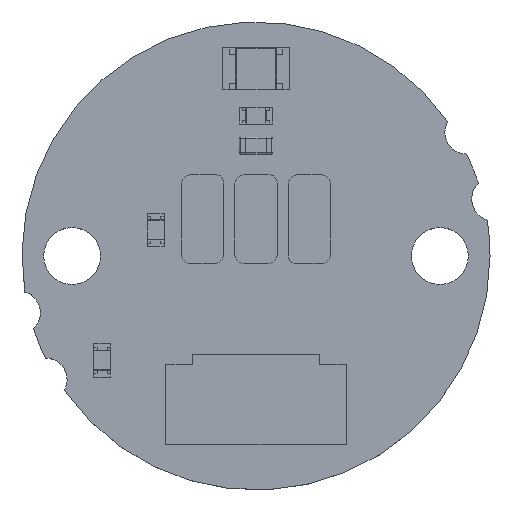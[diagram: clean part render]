
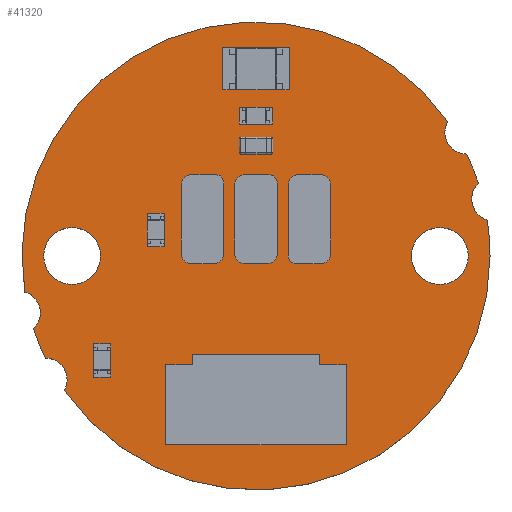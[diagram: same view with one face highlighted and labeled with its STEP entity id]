
A CAD part, top view. The second image highlights one B-rep face of the part: STEP entity #41320.
In plain terms, the highlighted planar face has unit normal (0, 0, 1).
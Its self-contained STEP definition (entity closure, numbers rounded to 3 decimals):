
#355 = DIRECTION ( 'NONE',  ( 0., 0., 1. ) ) ;
#532 = EDGE_CURVE ( 'NONE', #16950, #37010, #6153, .T. ) ;
#802 = DIRECTION ( 'NONE',  ( 0., 0., 1. ) ) ;
#1093 = CIRCLE ( 'NONE', #36538, 7. ) ;
#1194 = VERTEX_POINT ( 'NONE', #5838 ) ;
#1363 = EDGE_CURVE ( 'NONE', #3204, #37010, #33545, .T. ) ;
#1604 = CARTESIAN_POINT ( 'NONE',  ( 1.55, 6.3, 0. ) ) ;
#1630 = AXIS2_PLACEMENT_3D ( 'NONE', #33180, #802, #34109 ) ;
#1679 = EDGE_CURVE ( 'NONE', #37803, #23817, #35358, .T. ) ;
#1802 = CARTESIAN_POINT ( 'NONE',  ( 14.3, 11.7, 0. ) ) ;
#1896 = ORIENTED_EDGE ( 'NONE', *, *, #532, .F. ) ;
#2059 = CARTESIAN_POINT ( 'NONE',  ( 12.65, 8., 0. ) ) ;
#3204 = VERTEX_POINT ( 'NONE', #9495 ) ;
#3265 = ORIENTED_EDGE ( 'NONE', *, *, #17530, .F. ) ;
#3336 = ORIENTED_EDGE ( 'NONE', *, *, #13558, .F. ) ;
#3934 = EDGE_CURVE ( 'NONE', #41532, #42055, #1093, .T. ) ;
#4020 = VERTEX_POINT ( 'NONE', #42653 ) ;
#5017 = CARTESIAN_POINT ( 'NONE',  ( 13.5, 8., 0. ) ) ;
#5030 = EDGE_CURVE ( 'NONE', #36456, #43209, #39455, .T. ) ;
#5575 = FACE_BOUND ( 'NONE', #46551, .T. ) ;
#5838 = CARTESIAN_POINT ( 'NONE',  ( 2.267, 3.983, 0. ) ) ;
#6065 = CARTESIAN_POINT ( 'NONE',  ( 8., 8., 0. ) ) ;
#6153 = CIRCLE ( 'NONE', #38573, 0.65 ) ;
#6245 = EDGE_CURVE ( 'NONE', #36955, #19026, #35092, .T. ) ;
#6289 = DIRECTION ( 'NONE',  ( 1., 0., 0. ) ) ;
#7252 = AXIS2_PLACEMENT_3D ( 'NONE', #13262, #41673, #9283 ) ;
#7649 = CARTESIAN_POINT ( 'NONE',  ( 14.301, 11.05, 0. ) ) ;
#7730 = CARTESIAN_POINT ( 'NONE',  ( 8., 8., 0. ) ) ;
#8639 = DIRECTION ( 'NONE',  ( 0., 0., 1. ) ) ;
#9267 = ORIENTED_EDGE ( 'NONE', *, *, #46788, .T. ) ;
#9283 = DIRECTION ( 'NONE',  ( 1., 0., 0. ) ) ;
#9414 = DIRECTION ( 'NONE',  ( 0., 0., 1. ) ) ;
#9495 = CARTESIAN_POINT ( 'NONE',  ( 15., 8., 0. ) ) ;
#9509 = ORIENTED_EDGE ( 'NONE', *, *, #1363, .T. ) ;
#10370 = DIRECTION ( 'NONE',  ( 1., 0., 0. ) ) ;
#11916 = CIRCLE ( 'NONE', #17925, 0.85 ) ;
#13157 = CARTESIAN_POINT ( 'NONE',  ( 1.7, 4.3, 0. ) ) ;
#13262 = CARTESIAN_POINT ( 'NONE',  ( 2.5, 8., 0. ) ) ;
#13558 = EDGE_CURVE ( 'NONE', #23817, #37803, #11916, .T. ) ;
#13844 = AXIS2_PLACEMENT_3D ( 'NONE', #38622, #45063, #6289 ) ;
#13893 = DIRECTION ( 'NONE',  ( 0., 0., 1. ) ) ;
#14274 = EDGE_LOOP ( 'NONE', ( #22042, #24242 ) ) ;
#14335 = EDGE_CURVE ( 'NONE', #41532, #33280, #15643, .T. ) ;
#14739 = DIRECTION ( 'NONE',  ( 1., 0., 0. ) ) ;
#15355 = DIRECTION ( 'NONE',  ( 0., 0., 1. ) ) ;
#15643 = CIRCLE ( 'NONE', #26209, 0.65 ) ;
#15824 = EDGE_CURVE ( 'NONE', #4020, #42055, #27214, .T. ) ;
#15939 = DIRECTION ( 'NONE',  ( 1., 0., 0. ) ) ;
#16473 = DIRECTION ( 'NONE',  ( 1., 0., 0. ) ) ;
#16950 = VERTEX_POINT ( 'NONE', #18776 ) ;
#16980 = CIRCLE ( 'NONE', #7252, 0.85 ) ;
#17059 = DIRECTION ( 'NONE',  ( 0., 0., 1. ) ) ;
#17189 = CARTESIAN_POINT ( 'NONE',  ( 0.9, 6.3, 0. ) ) ;
#17530 = EDGE_CURVE ( 'NONE', #33280, #27466, #21966, .T. ) ;
#17831 = AXIS2_PLACEMENT_3D ( 'NONE', #20338, #27446, #45487 ) ;
#17925 = AXIS2_PLACEMENT_3D ( 'NONE', #23829, #24523, #16473 ) ;
#18776 = CARTESIAN_POINT ( 'NONE',  ( 14.654, 10.173, 0. ) ) ;
#19026 = VERTEX_POINT ( 'NONE', #7649 ) ;
#19180 = AXIS2_PLACEMENT_3D ( 'NONE', #6065, #31776, #20409 ) ;
#19684 = DIRECTION ( 'NONE',  ( 1., 0., 0. ) ) ;
#20338 = CARTESIAN_POINT ( 'NONE',  ( 8., 8., 0. ) ) ;
#20409 = DIRECTION ( 'NONE',  ( 1., 0., 0. ) ) ;
#20609 = AXIS2_PLACEMENT_3D ( 'NONE', #7730, #17059, #34135 ) ;
#21563 = EDGE_CURVE ( 'NONE', #16950, #19026, #38263, .T. ) ;
#21578 = CARTESIAN_POINT ( 'NONE',  ( 13.733, 12.017, 0. ) ) ;
#21900 = AXIS2_PLACEMENT_3D ( 'NONE', #46356, #13893, #10370 ) ;
#21966 = CIRCLE ( 'NONE', #44696, 0.65 ) ;
#22042 = ORIENTED_EDGE ( 'NONE', *, *, #5030, .F. ) ;
#23615 = CIRCLE ( 'NONE', #20609, 7. ) ;
#23817 = VERTEX_POINT ( 'NONE', #42342 ) ;
#23829 = CARTESIAN_POINT ( 'NONE',  ( 13.5, 8., 0. ) ) ;
#23836 = DIRECTION ( 'NONE',  ( 0., 0., 1. ) ) ;
#23942 = ORIENTED_EDGE ( 'NONE', *, *, #41260, .T. ) ;
#23950 = FACE_BOUND ( 'NONE', #14274, .T. ) ;
#24177 = PLANE ( 'NONE',  #13844 ) ;
#24242 = ORIENTED_EDGE ( 'NONE', *, *, #42270, .F. ) ;
#24523 = DIRECTION ( 'NONE',  ( 0., 0., 1. ) ) ;
#25243 = DIRECTION ( 'NONE',  ( 0., 0., 1. ) ) ;
#26209 = AXIS2_PLACEMENT_3D ( 'NONE', #17189, #23836, #42770 ) ;
#26517 = DIRECTION ( 'NONE',  ( 1., 0., 0. ) ) ;
#27078 = CARTESIAN_POINT ( 'NONE',  ( 1.083, 6.924, 0. ) ) ;
#27214 = CIRCLE ( 'NONE', #21900, 0.65 ) ;
#27400 = ORIENTED_EDGE ( 'NONE', *, *, #6245, .F. ) ;
#27446 = DIRECTION ( 'NONE',  ( 0., 0., 1. ) ) ;
#27466 = VERTEX_POINT ( 'NONE', #27078 ) ;
#28790 = ORIENTED_EDGE ( 'NONE', *, *, #15824, .F. ) ;
#29574 = CARTESIAN_POINT ( 'NONE',  ( 3.35, 8., 0. ) ) ;
#31087 = ORIENTED_EDGE ( 'NONE', *, *, #1679, .F. ) ;
#31776 = DIRECTION ( 'NONE',  ( 0., 0., 1. ) ) ;
#31898 = ORIENTED_EDGE ( 'NONE', *, *, #33348, .F. ) ;
#32592 = DIRECTION ( 'NONE',  ( 1., 0., 0. ) ) ;
#32754 = CARTESIAN_POINT ( 'NONE',  ( 15.1, 9.7, 0. ) ) ;
#33180 = CARTESIAN_POINT ( 'NONE',  ( 8., 8., 0. ) ) ;
#33232 = CIRCLE ( 'NONE', #33973, 0.65 ) ;
#33280 = VERTEX_POINT ( 'NONE', #1604 ) ;
#33348 = EDGE_CURVE ( 'NONE', #1194, #4020, #33232, .T. ) ;
#33545 = CIRCLE ( 'NONE', #19180, 7. ) ;
#33946 = DIRECTION ( 'NONE',  ( 0., 0., 1. ) ) ;
#33973 = AXIS2_PLACEMENT_3D ( 'NONE', #13157, #9414, #34694 ) ;
#34109 = DIRECTION ( 'NONE',  ( 1., 0., 0. ) ) ;
#34135 = DIRECTION ( 'NONE',  ( 1., 0., 0. ) ) ;
#34694 = DIRECTION ( 'NONE',  ( 1., 0., 0. ) ) ;
#35092 = CIRCLE ( 'NONE', #44949, 0.65 ) ;
#35358 = CIRCLE ( 'NONE', #39118, 0.85 ) ;
#35528 = CARTESIAN_POINT ( 'NONE',  ( 1.699, 4.95, 0. ) ) ;
#35567 = CARTESIAN_POINT ( 'NONE',  ( 14.917, 9.076, 0. ) ) ;
#36456 = VERTEX_POINT ( 'NONE', #29574 ) ;
#36538 = AXIS2_PLACEMENT_3D ( 'NONE', #41493, #8639, #19684 ) ;
#36955 = VERTEX_POINT ( 'NONE', #21578 ) ;
#37010 = VERTEX_POINT ( 'NONE', #35567 ) ;
#37803 = VERTEX_POINT ( 'NONE', #2059 ) ;
#38093 = CARTESIAN_POINT ( 'NONE',  ( 1.346, 5.827, 0. ) ) ;
#38263 = CIRCLE ( 'NONE', #17831, 7. ) ;
#38400 = FACE_OUTER_BOUND ( 'NONE', #38552, .T. ) ;
#38552 = EDGE_LOOP ( 'NONE', ( #23942, #9509, #1896, #41933, #27400, #9267, #3265, #39507, #44343, #28790, #31898 ) ) ;
#38573 = AXIS2_PLACEMENT_3D ( 'NONE', #32754, #355, #14739 ) ;
#38622 = CARTESIAN_POINT ( 'NONE',  ( 8., 8., 0. ) ) ;
#39118 = AXIS2_PLACEMENT_3D ( 'NONE', #5017, #15355, #42334 ) ;
#39455 = CIRCLE ( 'NONE', #40202, 0.85 ) ;
#39507 = ORIENTED_EDGE ( 'NONE', *, *, #14335, .F. ) ;
#39699 = CARTESIAN_POINT ( 'NONE',  ( 0.9, 6.3, 0. ) ) ;
#40202 = AXIS2_PLACEMENT_3D ( 'NONE', #44785, #44552, #26517 ) ;
#41260 = EDGE_CURVE ( 'NONE', #1194, #3204, #23615, .T. ) ;
#41320 = ADVANCED_FACE ( 'NONE', ( #5575, #23950, #38400 ), #24177, .T. ) ;
#41493 = CARTESIAN_POINT ( 'NONE',  ( 8., 8., 0. ) ) ;
#41532 = VERTEX_POINT ( 'NONE', #38093 ) ;
#41673 = DIRECTION ( 'NONE',  ( 0., 0., 1. ) ) ;
#41933 = ORIENTED_EDGE ( 'NONE', *, *, #21563, .T. ) ;
#42055 = VERTEX_POINT ( 'NONE', #35528 ) ;
#42270 = EDGE_CURVE ( 'NONE', #43209, #36456, #16980, .T. ) ;
#42334 = DIRECTION ( 'NONE',  ( 1., 0., 0. ) ) ;
#42342 = CARTESIAN_POINT ( 'NONE',  ( 14.35, 8., 0. ) ) ;
#42653 = CARTESIAN_POINT ( 'NONE',  ( 2.35, 4.3, 0. ) ) ;
#42770 = DIRECTION ( 'NONE',  ( 1., 0., 0. ) ) ;
#43002 = CARTESIAN_POINT ( 'NONE',  ( 1.65, 8., 0. ) ) ;
#43209 = VERTEX_POINT ( 'NONE', #43002 ) ;
#43948 = CIRCLE ( 'NONE', #1630, 7. ) ;
#44343 = ORIENTED_EDGE ( 'NONE', *, *, #3934, .T. ) ;
#44552 = DIRECTION ( 'NONE',  ( 0., 0., 1. ) ) ;
#44696 = AXIS2_PLACEMENT_3D ( 'NONE', #39699, #25243, #32592 ) ;
#44785 = CARTESIAN_POINT ( 'NONE',  ( 2.5, 8., 0. ) ) ;
#44949 = AXIS2_PLACEMENT_3D ( 'NONE', #1802, #33946, #15939 ) ;
#45063 = DIRECTION ( 'NONE',  ( 0., 0., 1. ) ) ;
#45487 = DIRECTION ( 'NONE',  ( 1., 0., 0. ) ) ;
#46356 = CARTESIAN_POINT ( 'NONE',  ( 1.7, 4.3, 0. ) ) ;
#46551 = EDGE_LOOP ( 'NONE', ( #3336, #31087 ) ) ;
#46788 = EDGE_CURVE ( 'NONE', #36955, #27466, #43948, .T. ) ;
